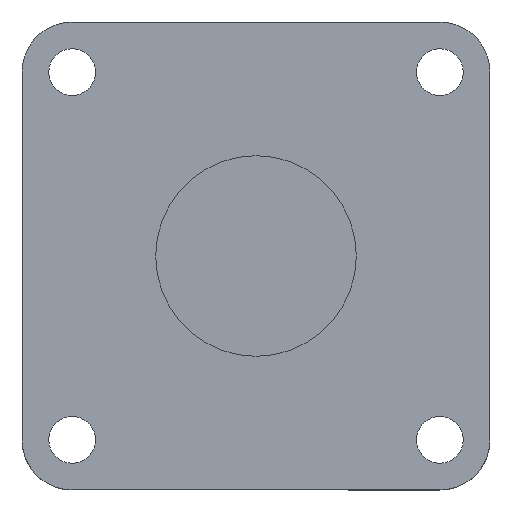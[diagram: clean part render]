
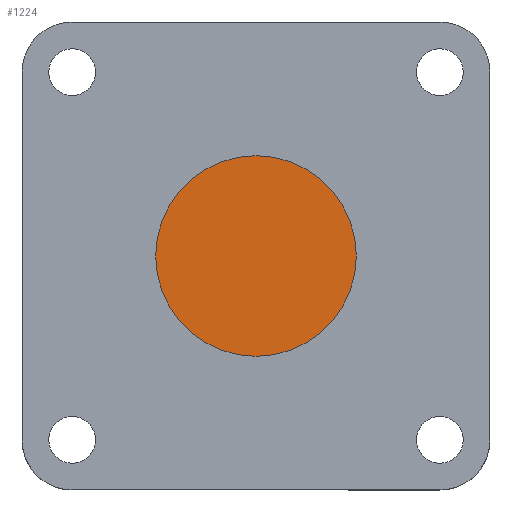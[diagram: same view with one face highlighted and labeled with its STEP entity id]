
A CAD part, front view. The second image highlights one B-rep face of the part: STEP entity #1224.
In plain terms, the highlighted planar face has unit normal (0, -1, 0).
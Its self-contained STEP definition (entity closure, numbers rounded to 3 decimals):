
#133 = CARTESIAN_POINT ( 'NONE',  ( 0., -13., 30. ) ) ;
#135 = CARTESIAN_POINT ( 'NONE',  ( 0., -13., -30. ) ) ;
#165 = DIRECTION ( 'NONE',  ( 0., 0., -1. ) ) ;
#166 = DIRECTION ( 'NONE',  ( 0., -1., 0. ) ) ;
#167 = CARTESIAN_POINT ( 'NONE',  ( 0., -13., 0. ) ) ;
#168 = AXIS2_PLACEMENT_3D ( 'NONE', #167, #166, #165 ) ;
#169 = CIRCLE ( 'NONE', #168, 30. ) ;
#555 = CIRCLE ( 'NONE', #611, 30. ) ;
#601 = DIRECTION ( 'NONE',  ( 0., 0., -1. ) ) ;
#602 = DIRECTION ( 'NONE',  ( 0., -1., 0. ) ) ;
#603 = CARTESIAN_POINT ( 'NONE',  ( 0., -13., 0. ) ) ;
#605 = AXIS2_PLACEMENT_3D ( 'NONE', #603, #602, #601 ) ;
#606 = PLANE ( 'NONE',  #605 ) ;
#607 = FACE_OUTER_BOUND ( 'NONE', #1153, .T. ) ;
#608 = DIRECTION ( 'NONE',  ( 0., 0., -1. ) ) ;
#609 = DIRECTION ( 'NONE',  ( 0., -1., 0. ) ) ;
#610 = CARTESIAN_POINT ( 'NONE',  ( 0., -13., 0. ) ) ;
#611 = AXIS2_PLACEMENT_3D ( 'NONE', #610, #609, #608 ) ;
#967 = VERTEX_POINT ( 'NONE', #135 ) ;
#969 = VERTEX_POINT ( 'NONE', #133 ) ;
#971 = EDGE_CURVE ( 'NONE', #969, #967, #169, .T. ) ;
#1153 = EDGE_LOOP ( 'NONE', ( #1154, #1155 ) ) ;
#1154 = ORIENTED_EDGE ( 'NONE', *, *, #1221, .T. ) ;
#1155 = ORIENTED_EDGE ( 'NONE', *, *, #971, .T. ) ;
#1221 = EDGE_CURVE ( 'NONE', #967, #969, #555, .T. ) ;
#1224 = ADVANCED_FACE ( 'NONE', ( #607 ), #606, .T. ) ;
